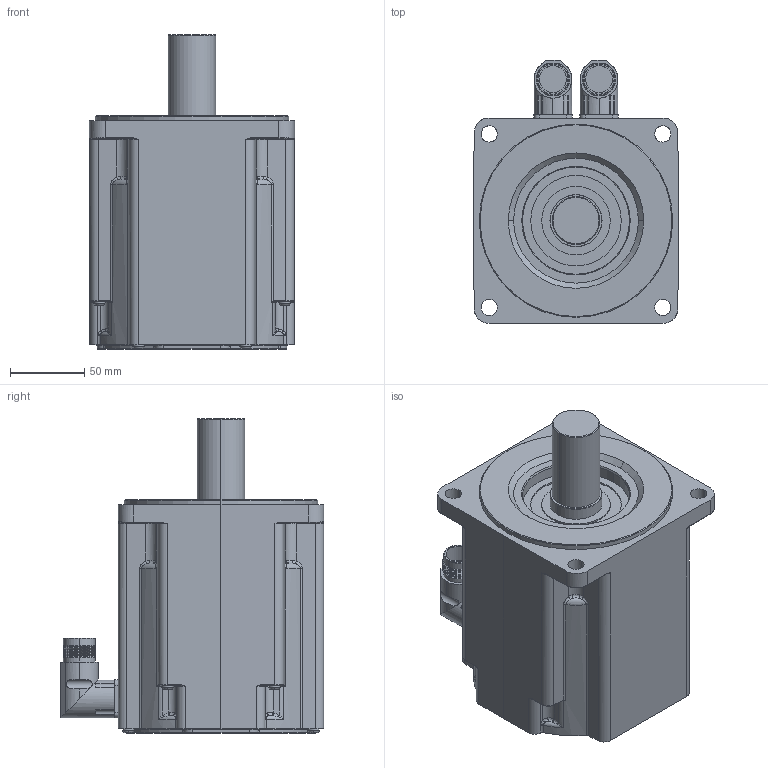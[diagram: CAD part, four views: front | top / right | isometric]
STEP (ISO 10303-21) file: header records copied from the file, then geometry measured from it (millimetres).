
FILE_DESCRIPTION (( 'STEP AP214' ), '1' );
FILE_NAME ('MR7762-Ux-Nxx-G01-A0D-M0-P0.stp', '2009-04-08T13:46:00', ( 'SysAdmin' ), ( 'SolidWorks' ), 'SwSTEP 2.0', 'SolidWorks 2009', '' );
FILE_SCHEMA (( 'AUTOMOTIVE_DESIGN' ));
Length unit declared in the file: millimetre
Products named in the file (1): MR7762-Ux-Nxx-G01-A0D-M0-P0
Bounding box: 138 x 177 x 211.7 mm (x, y, z)
Volume: 2621283.1 mm3; surface area: 138733.6 mm2
Topology: 1 solids, 1 shells, 628 faces, 1528 edges, 904 vertices
Faces by surface type: cylinder 206, cone 118, plane 116, bspline 116, torus 72
Entity records: 29687 total; most frequent: CARTESIAN_POINT 9015, ORIENTED_EDGE 3008, DIRECTION 2808, EDGE_CURVE 1504, AXIS2_PLACEMENT_3D 1207, VERTEX_POINT 904, CIRCLE 694, EDGE_LOOP 662
